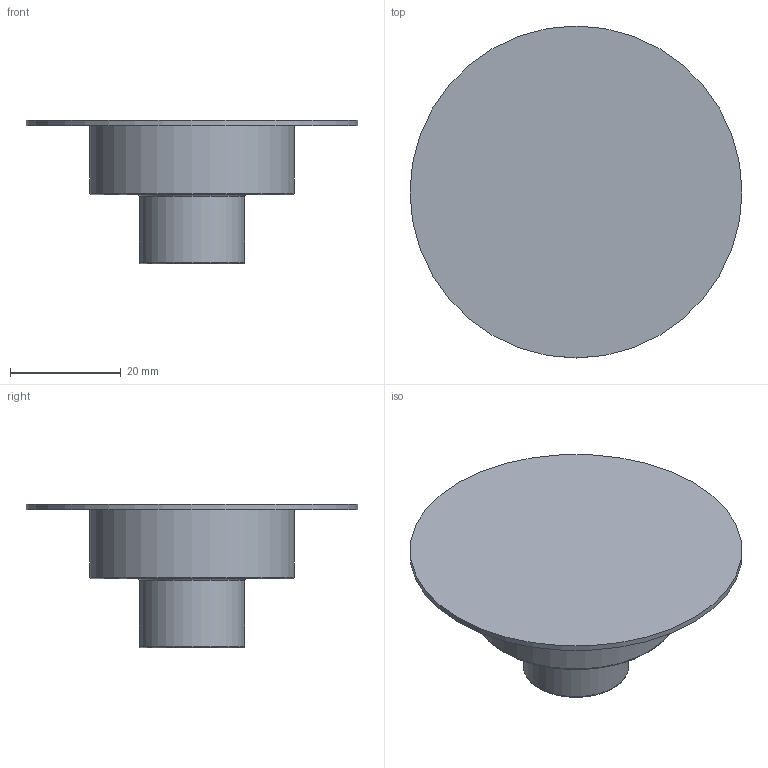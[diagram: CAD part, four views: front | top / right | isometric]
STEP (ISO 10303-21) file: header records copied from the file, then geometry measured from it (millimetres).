
FILE_DESCRIPTION(/* description */ ('Unknown'),/* implementation_level */ '2;1');
FILE_NAME(/* name */ '64270',/* time_stamp */ '2023-02-07T11:26:38-05:00',/* author */ ('Unknown'),/* organization */ ('Unknown'),/* preprocessor_version */ 'ST-DEVELOPER v18.1',/* originating_system */ 'Solid Edge',/* authorisation */ 'Unknown');
FILE_SCHEMA (('AUTOMOTIVE_DESIGN {1 0 10303 214 3 1 1}'));
Length unit declared in the file: millimetre
Products named in the file (1): 64270
Bounding box: 60 x 60 x 26 mm (x, y, z)
Volume: 19809.4 mm3; surface area: 8012.1 mm2
Topology: 1 solids, 1 shells, 10 faces, 16 edges, 10 vertices
Faces by surface type: plane 4, torus 3, cylinder 3
Full cylindrical faces by diameter (mm): 19 x1, 37 x1, 60 x1
Entity records: 224 total; most frequent: DIRECTION 40, CARTESIAN_POINT 29, AXIS2_PLACEMENT_3D 20, ORIENTED_EDGE 18, EDGE_LOOP 18, FACE_BOUND 18, ADVANCED_FACE 10, EDGE_CURVE 9
